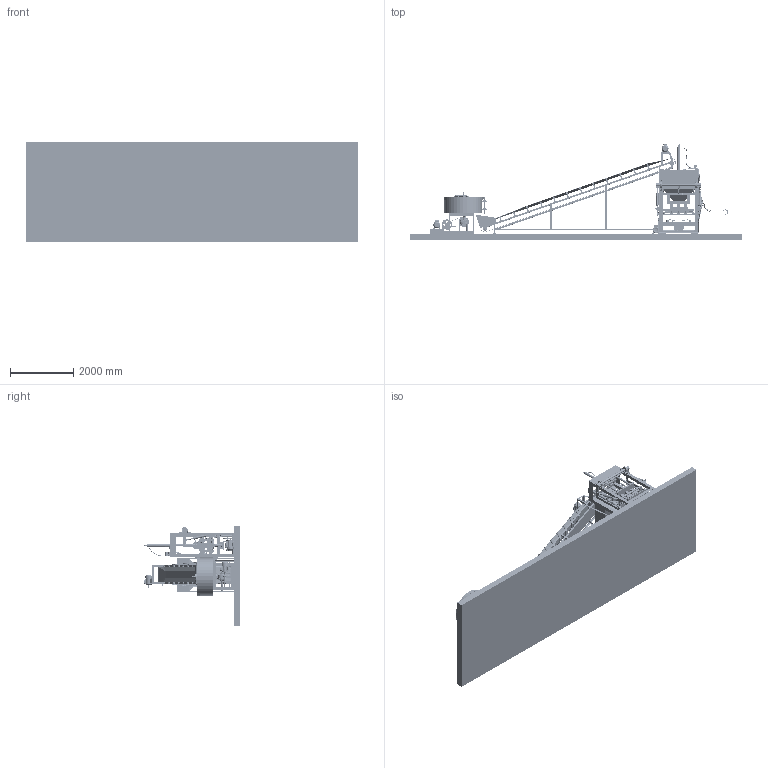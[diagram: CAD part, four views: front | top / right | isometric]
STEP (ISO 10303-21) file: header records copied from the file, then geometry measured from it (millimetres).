
FILE_DESCRIPTION(/* description */ (''),/* implementation_level */ '2;1');
FILE_NAME(/* name */ 'beltconveyor_a044_w480_l6400.stp',/* time_stamp */ '2024-12-21T19:51:24+08:00',/* author */ (''),/* organization */ (''),/* preprocessor_version */ 'ST-DEVELOPER v16.7',/* originating_system */ 'SIEMENS PLM Software NX 12.0',/* authorisation */ '');
FILE_SCHEMA (('AUTOMOTIVE_DESIGN { 1 0 10303 214 3 1 1 1 }'));
Products named in the file (88): sangga3_Default_As Machined_; sangga4_Default_As Machined_; sangga_Default_As Machined_; roll; as roll; Part3^UCP 208; Part2^UCP 208; Part1_1; rangka 4m_Default_As Machined_; Part7^conveyr 4m; corong; rol 60; as rol 60; Part3^conveyr 4m; Radial Ball Bearing_68_JIS_JIS B 1512-1 - 8220 - B,10,SI,NC,10_68; Part22^Assem1; Part5^Assem1; differential drive; Belt1-1^Assem1; Part21^Assem1; Part3^Assem1; Part19^Assem1; Hexagon Nut Style 1_AB_JIS_JIS B 1181 Hexagon nut - style 1 B M30 - W
 --N; Part1^Assem1; Part17^Assem1 rangka_Default_As Machined_; Part6^Assem1 as mxr; Part2^Assem1; Part16_Default_As Machined_; Part5^Assem1 as mixer; UCF206; as 2; Pulley 4in; as tj; Belt3-2^Assem1; tabung 80; tumpu tekan; hidrolik kumanda_Varsayilan; Pulley 12in; rangka 120_Default_As Machined_; 4KW 1500 devir ...
Assembly tree (164 placements, depth 4):
  beltconveyor_a044_w480_l6400
    Part4^batako bsar  x2
    Part3^hidrolik 140 b
    Part12^hidrolik 140 b  x3
    as engkol
    cetak tekan 12
    Part2 140  x2
    tumpu  x2
    Part3^batako bsar  x4
    Part17^hidrolik 140 b  x2
    acrylik oil  x2
    engkol 45cm b
    Assem1
      Belt3-2^Assem1
      as tj
      Pulley 4in  x2
      Pulley 12in  x2
      as 2
      UCF206  x2
      Part5^Assem1 as mixer
      Part16_Default_As Machined_
      Part2^Assem1
      Part6^Assem1 as mxr
      Part17^Assem1 rangka_Default_As Machined_
      4KW 1500 devir
      Part1^Assem1
      Hexagon Nut Style 1_AB_JIS_JIS B 1181 Hexagon nut - style 1 B M30 - W
 --N  x2
      UCP 208  x3
        Part1_1
        Part2^UCP 208
        Part3^UCP 208
      Part19^Assem1
      Part3^Assem1
      Part21^Assem1
      Belt1-1^Assem1
      differential drive
      Part5^Assem1
      Part22^Assem1
    tumpu 80
    Part9_1  x2
    Part5^hidrolik 140 b
    helix laker
    cetakan 12
    alas tumpu  x2
    as  x2
    Part2^batako bsar  x4
    engkol 45cm
    conveyr 4m
      Radial Ball Bearing_68_JIS_JIS B 1512-1 - 8220 - B,10,SI,NC,10_68  x4
      asb cv  x10
        Radial Ball Bearing_68_JIS_JIS B 1512-1 - 8220 - B,10,SI,NC,10_68
        as roll
        roll
        sangga_Default_As Machined_
      Part3^conveyr 4m
      roll4
        roll  x3
        sangga4_Default_As Machined_
        as roll  x3
      as rol 60  x2
Bounding box: 10458.68 x 3025.12 x 3147.36 mm (x, y, z)
Volume: 7378852363.2 mm3; surface area: 161166899.7 mm2
Topology: 529 solids, 545 shells, 16522 faces, 40282 edges, 25334 vertices
Faces by surface type: plane 7527, cylinder 5048, torus 1411, bspline 1228, cone 531, extrusion 492, sphere 285
Entity records: 325471 total; most frequent: CARTESIAN_POINT 119390, ORIENTED_EDGE 40088, DIRECTION 36029, EDGE_CURVE 20044, VERTEX_POINT 12796, AXIS2_PLACEMENT_3D 12301, VECTOR 11427, LINE 10935
